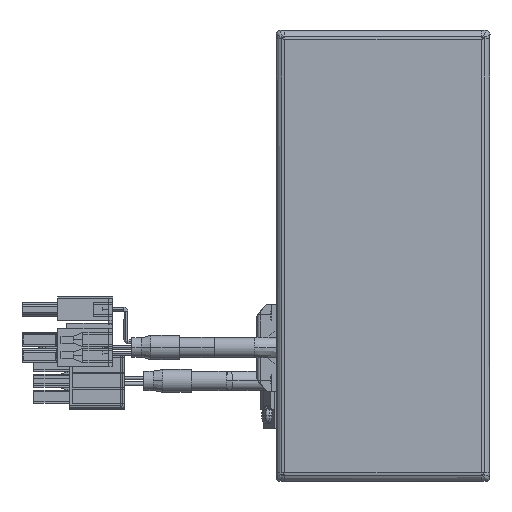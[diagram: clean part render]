
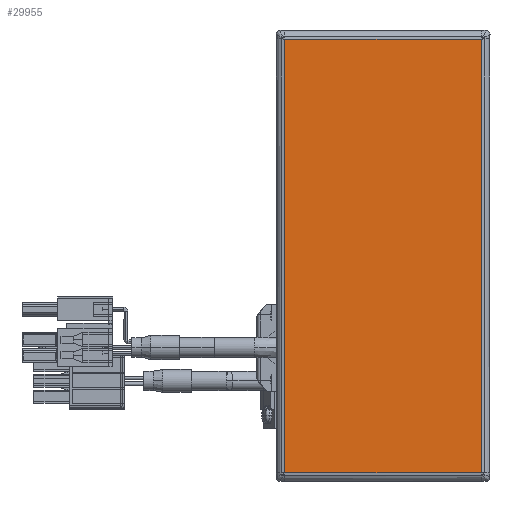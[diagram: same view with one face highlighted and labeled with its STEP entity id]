
A CAD part, top view. The second image highlights one B-rep face of the part: STEP entity #29955.
In plain terms, the highlighted planar face has unit normal (0, 0, 1) as drawn and (0, 0, -1) by its records, which use the part's own axes.
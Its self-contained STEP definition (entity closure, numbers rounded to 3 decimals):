
#2751 = LINE ( 'NONE', #9260, #51993 ) ;
#4615 = DIRECTION ( 'NONE',  ( -1., 0., 0. ) ) ;
#5725 = ORIENTED_EDGE ( 'NONE', *, *, #29847, .T. ) ;
#9260 = CARTESIAN_POINT ( 'NONE',  ( 56.793, -25.763, -1.5 ) ) ;
#11051 = VECTOR ( 'NONE', #40872, 1000. ) ;
#11550 = CARTESIAN_POINT ( 'NONE',  ( -56.793, 25.763, -1.5 ) ) ;
#12184 = DIRECTION ( 'NONE',  ( 0., 0., -1. ) ) ;
#14202 = VERTEX_POINT ( 'NONE', #17523 ) ;
#14368 = VECTOR ( 'NONE', #25575, 1000. ) ;
#17523 = CARTESIAN_POINT ( 'NONE',  ( 56.763, -25.763, -1.5 ) ) ;
#17961 = VERTEX_POINT ( 'NONE', #35274 ) ;
#20624 = VECTOR ( 'NONE', #39355, 1000. ) ;
#21661 = ORIENTED_EDGE ( 'NONE', *, *, #44809, .T. ) ;
#23318 = EDGE_CURVE ( 'NONE', #14202, #17961, #2751, .T. ) ;
#23573 = VERTEX_POINT ( 'NONE', #24615 ) ;
#24615 = CARTESIAN_POINT ( 'NONE',  ( 56.763, 25.763, -1.5 ) ) ;
#25295 = EDGE_LOOP ( 'NONE', ( #5725, #50759, #21661, #26189 ) ) ;
#25575 = DIRECTION ( 'NONE',  ( 0., -1., 0. ) ) ;
#26189 = ORIENTED_EDGE ( 'NONE', *, *, #57490, .T. ) ;
#29847 = EDGE_CURVE ( 'NONE', #23573, #14202, #51373, .T. ) ;
#29955 = ADVANCED_FACE ( 'NONE', ( #34732 ), #30693, .T. ) ;
#30693 = PLANE ( 'NONE',  #47982 ) ;
#32133 = CARTESIAN_POINT ( 'NONE',  ( -56.763, 25.763, -1.5 ) ) ;
#34732 = FACE_OUTER_BOUND ( 'NONE', #25295, .T. ) ;
#34799 = VERTEX_POINT ( 'NONE', #32133 ) ;
#35274 = CARTESIAN_POINT ( 'NONE',  ( -56.763, -25.763, -1.5 ) ) ;
#39355 = DIRECTION ( 'NONE',  ( 1., 0., 0. ) ) ;
#39405 = CARTESIAN_POINT ( 'NONE',  ( 56.763, 25.793, -1.5 ) ) ;
#39992 = CARTESIAN_POINT ( 'NONE',  ( 0., 0., -1.5 ) ) ;
#40872 = DIRECTION ( 'NONE',  ( 0., 1., 0. ) ) ;
#44623 = DIRECTION ( 'NONE',  ( -1., 0., 0. ) ) ;
#44809 = EDGE_CURVE ( 'NONE', #17961, #34799, #46577, .T. ) ;
#45313 = LINE ( 'NONE', #11550, #20624 ) ;
#46577 = LINE ( 'NONE', #59405, #11051 ) ;
#47982 = AXIS2_PLACEMENT_3D ( 'NONE', #39992, #12184, #44623 ) ;
#50759 = ORIENTED_EDGE ( 'NONE', *, *, #23318, .T. ) ;
#51373 = LINE ( 'NONE', #39405, #14368 ) ;
#51993 = VECTOR ( 'NONE', #4615, 1000. ) ;
#57490 = EDGE_CURVE ( 'NONE', #34799, #23573, #45313, .T. ) ;
#59405 = CARTESIAN_POINT ( 'NONE',  ( -56.763, -25.793, -1.5 ) ) ;
